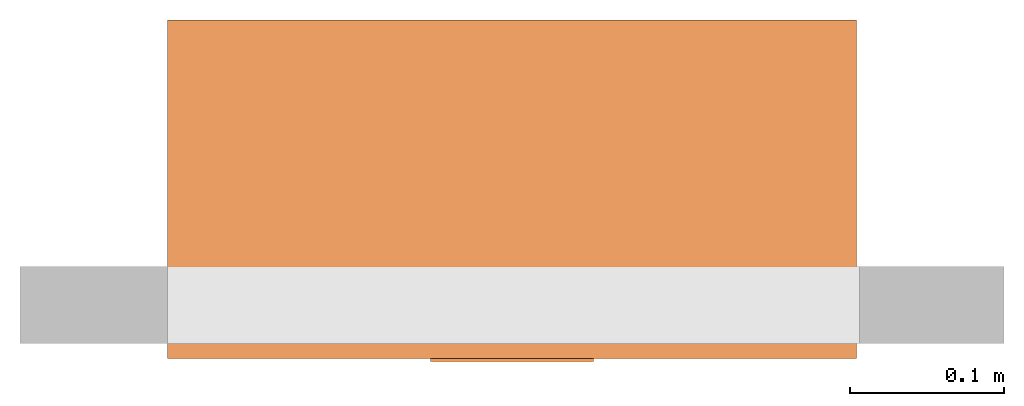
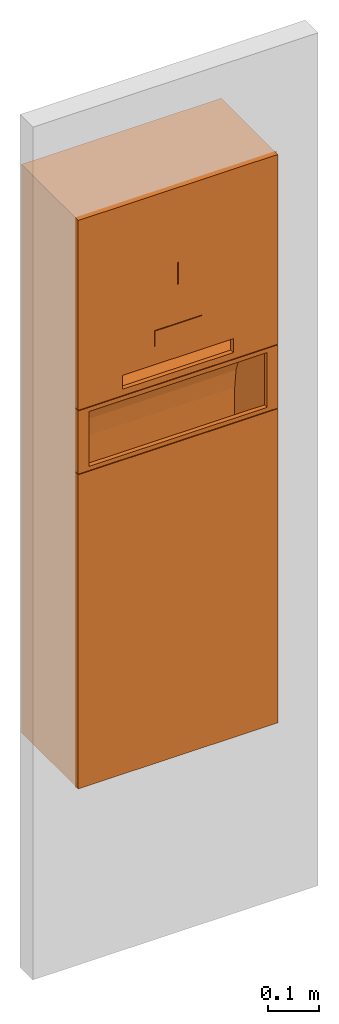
# One storey, part 2 of 2: 1 proxy.
"""IFC2X3 building model written with IfcOpenShell, lengths in millimetres."""

from ifc_helpers import new_model, entity, si_unit, converted_unit, derived_unit, direction, frame, origin, place, context, subcontext, project, spatial, faceted_brep, source, transform, mapped, material, material_list, element, save


model = new_model("IFC2X3")

# Units and contexts
model_context = context("Model", 3, precision=1e-05, world=origin(), true_north=direction((2.0, 6.12303176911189e-17, 1.0)))
context_of_model = context(None, 3, precision=1e-05, world=origin(), true_north=direction((2.0, 6.12303176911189e-17, 1.0)))
body_context = subcontext(model_context, "Body", "Model", "MODEL_VIEW")
ifc_project = project(units=[si_unit("LENGTHUNIT", "METRE", prefix="MILLI"), si_unit("AREAUNIT", "SQUARE_METRE"), si_unit("VOLUMEUNIT", "CUBIC_METRE"), converted_unit("PLANEANGLEUNIT", "DEGREE", entity("IfcRatioMeasure", 0.0174532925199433), si_unit("PLANEANGLEUNIT", "RADIAN"), dimensions=[0, 0, 0, 0, 0, 0, 0]), si_unit("MASSUNIT", "GRAM", prefix="KILO"), si_unit("TIMEUNIT", "SECOND"), si_unit("THERMODYNAMICTEMPERATUREUNIT", "KELVIN"), derived_unit("THERMALTRANSMITTANCEUNIT", [(si_unit("MASSUNIT", "GRAM", prefix="KILO"), 1), (si_unit("THERMODYNAMICTEMPERATUREUNIT", "KELVIN"), -1), (si_unit("TIMEUNIT", "SECOND"), -3)]), derived_unit("VOLUMETRICFLOWRATEUNIT", [(si_unit("LENGTHUNIT", "METRE"), 3), (si_unit("TIMEUNIT", "SECOND"), -1)]), si_unit("POWERUNIT", "WATT")], contexts=[model_context, context_of_model])

# Site, building, storey
site_placement = place(None, origin())
site = spatial("IfcSite", under=ifc_project, at=site_placement, Name="Default", CompositionType="ELEMENT")
building_placement = place(site_placement, origin())
building = spatial("IfcBuilding", under=site, at=building_placement, CompositionType="ELEMENT")
storey_placement = place(building_placement, origin())
storey = spatial("IfcBuildingStorey", under=building, at=storey_placement, Name="Level 1", CompositionType="ELEMENT", Elevation=0.0)

# Proxy
ifc_material = material(Name="Glass")
ifc_material_list = material_list([ifc_material])
shared_shape = source(origin(), body_context, "Body", "Brep", [
    faceted_brep([(53.0, -222.0, 990.0), (53.0, -222.0, 1027.0), (-53.0, -222.0, 1027.0), (-53.0, -222.0, 990.0), (0.0, -222.0, 990.0), (53.0, -219.0, 990.0), (0.0, -219.0, 990.0), (-53.0, -219.0, 990.0), (-53.0, -219.0, 1027.0), (53.0, -219.0, 1027.0), (53.0, -222.0, 1027.0), (53.0, -222.0, 990.0), (53.0, -219.0, 990.0), (53.0, -219.0, 1027.0), (-53.0, -222.0, 1027.0), (53.0, -222.0, 1027.0), (53.0, -219.0, 1027.0), (-53.0, -219.0, 1027.0), (-53.0, -222.0, 990.0), (-53.0, -222.0, 1027.0), (-53.0, -219.0, 1027.0), (-53.0, -219.0, 990.0), (0.0, -222.0, 990.0), (-53.0, -222.0, 990.0), (-53.0, -219.0, 990.0), (0.0, -219.0, 990.0), (53.0, -222.0, 990.0), (0.0, -222.0, 990.0), (0.0, -219.0, 990.0), (53.0, -219.0, 990.0)], [[[0, 1, 2, 3, 4]], [[5, 6, 7, 8, 9]], [[10, 11, 12, 13]], [[14, 15, 16, 17]], [[18, 19, 20, 21]], [[22, 23, 24, 25]], [[26, 27, 28, 29]]]),
    faceted_brep([(223.0, -40.0, 896.500000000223), (223.0, -210.0, 896.500000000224), (223.0, -210.0, 886.500000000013), (223.0, -168.045080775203, 872.770704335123), (223.0, -130.281413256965, 849.909947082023), (223.0, -98.6652923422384, 819.101998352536), (223.0, -74.8345477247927, 781.94282159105), (223.0, -60.0236983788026, 740.35739688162), (223.0, -55.0, 696.500000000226), (223.0, -55.0, 526.500000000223), (223.0, -40.0, 526.500000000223), (-223.0, -210.0, 886.500000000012), (-223.0, -210.0, 896.500000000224), (-223.0, -40.0, 896.500000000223), (-223.0, -40.0, 526.500000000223), (-223.0, -55.0, 526.500000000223), (-223.0, -55.0, 696.500000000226), (-223.0, -60.0236983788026, 740.35739688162), (-223.0, -74.8345477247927, 781.94282159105), (-223.0, -98.6652923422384, 819.101998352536), (-223.0, -130.281413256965, 849.909947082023), (-223.0, -168.045080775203, 872.770704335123)], [[[0, 1, 2, 3, 4, 5, 6, 7, 8, 9, 10]], [[11, 12, 13, 14, 15, 16, 17, 18, 19, 20, 21]], [[1, 0, 13, 12]], [[2, 1, 12, 11]], [[3, 2, 11, 21]], [[4, 3, 21, 20]], [[20, 19, 5, 4]], [[7, 6, 18, 17]], [[8, 7, 17, 16]], [[19, 18, 6, 5]], [[9, 8, 16, 15]], [[10, 9, 15, 14]], [[0, 10, 14, 13]]]),
    faceted_brep([(-224.0, -210.0, 898.0), (-124.0, -210.0, 946.0), (-124.0, -210.0, 913.0), (-224.0, -210.0, 1348.0), (0.0, -210.0, 913.0), (224.0, -210.0, 898.0), (-1.24999999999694, -210.0, 1119.25), (-1.24999999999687, -210.0, 1170.25), (0.0, -210.0, 1171.5), (224.0, -210.0, 1348.0), (124.0, -210.0, 946.0), (1.2500000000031, -210.0, 1170.25), (1.25000000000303, -210.0, 1119.25), (124.0, -210.0, 913.0), (0.0, -210.0, 1118.0), (-224.0, -220.0, 1348.0), (-1.24999999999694, -220.0, 1119.25), (-1.24999999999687, -220.0, 1170.25), (-124.0, -220.0, 946.0), (0.0, -220.0, 1171.5), (224.0, -220.0, 1348.0), (-224.0, -220.0, 898.0), (-124.0, -220.0, 913.0), (0.0, -220.0, 913.0), (224.0, -220.0, 898.0), (124.0, -220.0, 913.0), (124.0, -220.0, 946.0), (1.25000000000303, -220.0, 1119.25), (0.0, -220.0, 1118.0), (1.25000000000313, -220.0, 1170.25)], [[[0, 1, 2]], [[1, 0, 3]], [[0, 2, 4]], [[5, 0, 4]], [[6, 1, 3]], [[3, 7, 6]], [[7, 3, 8]], [[9, 8, 3]], [[5, 10, 9]], [[8, 9, 11]], [[12, 11, 9]], [[12, 9, 10]], [[5, 13, 10]], [[1, 14, 10]], [[14, 12, 10]], [[6, 14, 1]], [[13, 5, 4]], [[15, 16, 17]], [[16, 15, 18]], [[15, 17, 19]], [[19, 20, 15]], [[15, 21, 18]], [[21, 22, 18]], [[22, 21, 23]], [[23, 21, 24]], [[24, 25, 23]], [[25, 24, 26]], [[24, 20, 26]], [[20, 27, 26]], [[26, 28, 18]], [[26, 27, 28]], [[28, 16, 18]], [[20, 19, 29]], [[29, 27, 20]], [[24, 21, 0, 5]], [[20, 24, 5, 9]], [[15, 20, 9, 3]], [[21, 15, 3, 0]], [[23, 25, 13, 4, 2, 22]], [[18, 22, 2, 1]], [[26, 18, 1, 10]], [[25, 26, 10, 13]], [[27, 29, 11, 12]], [[12, 14, 28, 27]], [[6, 16, 28, 14]], [[17, 16, 6, 7]], [[7, 8, 19, 17]], [[11, 29, 19, 8]]]),
    faceted_brep([(-224.0, -210.0, 745.0), (224.0, -210.0, 745.0), (224.0, -210.0, 0.0), (-224.0, -210.0, 0.0), (-224.0, -220.0, 0.0), (-224.0, -220.0, 745.0), (-224.0, -210.0, 745.0), (-224.0, -210.0, 0.0), (224.0, -220.0, 0.0), (-224.0, -220.0, 0.0), (-224.0, -210.0, 0.0), (224.0, -210.0, 0.0), (224.0, -220.0, 745.0), (224.0, -220.0, 0.0), (224.0, -210.0, 0.0), (224.0, -210.0, 745.0), (-224.0, -220.0, 745.0), (224.0, -220.0, 745.0), (224.0, -210.0, 745.0), (-224.0, -210.0, 745.0), (-224.0, -220.0, 745.0), (-224.0, -220.0, 0.0), (224.0, -220.0, 0.0), (224.0, -220.0, 745.0)], [[[0, 1, 2, 3]], [[4, 5, 6, 7]], [[8, 9, 10, 11]], [[12, 13, 14, 15]], [[16, 17, 18, 19]], [[20, 21, 22, 23]]]),
    faceted_brep([(224.0, -220.0, 896.5), (224.0, -220.0, 746.532649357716), (224.0, -210.0, 746.532649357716), (224.0, -210.0, 896.5), (-224.0, -220.0, 896.500000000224), (224.0, -220.0, 896.5), (224.0, -210.0, 896.5), (-224.0, -210.0, 896.500000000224), (-224.0, -220.0, 746.532649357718), (-224.0, -220.0, 896.500000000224), (-224.0, -210.0, 896.500000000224), (-224.0, -210.0, 746.532649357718), (224.0, -220.0, 746.532649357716), (-224.0, -220.0, 746.532649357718), (-224.0, -210.0, 746.532649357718), (224.0, -210.0, 746.532649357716), (-200.0, -220.0, 756.532649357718), (200.0, -220.0, 756.532649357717), (200.0, -210.0, 756.532649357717), (-200.0, -210.0, 756.532649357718), (-200.0, -220.0, 886.500000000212), (-200.0, -220.0, 756.532649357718), (-200.0, -210.0, 756.532649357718), (-200.0, -210.0, 886.500000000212), (200.0, -220.0, 886.500000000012), (-200.0, -220.0, 886.500000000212), (-200.0, -210.0, 886.500000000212), (200.0, -210.0, 886.500000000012), (200.0, -220.0, 756.532649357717), (200.0, -220.0, 886.500000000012), (200.0, -210.0, 886.500000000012), (200.0, -210.0, 756.532649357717), (224.0, -210.0, 746.532649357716), (-224.0, -210.0, 746.532649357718), (-224.0, -210.0, 896.500000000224), (224.0, -210.0, 896.5), (200.0, -210.0, 756.532649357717), (200.0, -210.0, 886.500000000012), (-200.0, -210.0, 886.500000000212), (-200.0, -210.0, 756.532649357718), (224.0, -220.0, 746.532649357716), (224.0, -220.0, 896.5), (-224.0, -220.0, 896.500000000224), (-224.0, -220.0, 746.532649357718), (200.0, -220.0, 756.532649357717), (-200.0, -220.0, 756.532649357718), (-200.0, -220.0, 886.500000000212), (200.0, -220.0, 886.500000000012)], [[[0, 1, 2, 3]], [[4, 5, 6, 7]], [[8, 9, 10, 11]], [[12, 13, 14, 15]], [[16, 17, 18, 19]], [[20, 21, 22, 23]], [[24, 25, 26, 27]], [[28, 29, 30, 31]], [[32, 33, 34, 35], [36, 37, 38, 39]], [[40, 41, 42, 43], [44, 45, 46, 47]]]),
    faceted_brep([(-224.0, -2.0, 1348.0), (-224.0, -2.0, 0.0), (224.0, -2.0, 0.0), (224.0, -2.0, 1348.0), (-224.0, 0.0, 1348.0), (224.0, 0.0, 1348.0), (224.0, 0.0, 0.0), (-224.0, 0.0, 0.0), (-224.0, -2.0, 0.0), (-224.0, -2.0, 1348.0), (-224.0, 0.0, 1348.0), (-224.0, 0.0, 0.0), (224.0, -2.0, 0.0), (-224.0, -2.0, 0.0), (-224.0, 0.0, 0.0), (224.0, 0.0, 0.0), (224.0, -2.0, 1348.0), (224.0, -2.0, 0.0), (224.0, 0.0, 0.0), (224.0, 0.0, 1348.0), (-224.0, -2.0, 1348.0), (224.0, -2.0, 1348.0), (224.0, 0.0, 1348.0), (-224.0, 0.0, 1348.0)], [[[0, 1, 2, 3]], [[4, 5, 6, 7]], [[8, 9, 10, 11]], [[12, 13, 14, 15]], [[16, 17, 18, 19]], [[20, 21, 22, 23]]]),
    faceted_brep([(224.0, -210.0, 0.0), (224.0, -210.0, 1348.0), (-224.0, -210.0, 1348.0), (-224.0, -210.0, 0.0), (-222.499999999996, -210.0, 1346.5), (222.500000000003, -210.0, 1346.5), (222.499999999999, -210.0, 1.50000000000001), (-222.499999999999, -210.0, 1.50000000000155), (224.0, 0.0, 0.0), (-224.0, 0.0, 0.0), (-224.0, 0.0, 1348.0), (224.0, 0.0, 1348.0), (-222.499999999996, 0.0, 1346.5), (-222.499999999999, 0.0, 1.50000000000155), (222.499999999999, 0.0, 1.49999999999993), (222.500000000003, 0.0, 1346.5), (224.0, -210.0, 1348.0), (224.0, -210.0, 0.0), (224.0, 0.0, 0.0), (224.0, 0.0, 1348.0), (-224.0, -210.0, 1348.0), (224.0, -210.0, 1348.0), (224.0, 0.0, 1348.0), (-224.0, 0.0, 1348.0), (-224.0, -210.0, 0.0), (-224.0, -210.0, 1348.0), (-224.0, 0.0, 1348.0), (-224.0, 0.0, 0.0), (224.0, -210.0, 0.0), (-224.0, -210.0, 0.0), (-224.0, 0.0, 0.0), (224.0, 0.0, 0.0), (222.500000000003, -210.0, 1346.5), (-222.499999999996, -210.0, 1346.5), (-222.499999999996, 0.0, 1346.5), (222.500000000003, 0.0, 1346.5), (222.499999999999, -210.0, 1.49999999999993), (222.500000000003, -210.0, 1346.5), (222.500000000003, 0.0, 1346.5), (222.499999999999, 0.0, 1.50000000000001), (-222.499999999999, -210.0, 1.50000000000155), (222.499999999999, -210.0, 1.50000000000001), (222.499999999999, 0.0, 1.50000000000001), (-222.499999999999, 0.0, 1.50000000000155), (-222.499999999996, -210.0, 1346.5), (-222.499999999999, -210.0, 1.50000000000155), (-222.499999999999, 0.0, 1.50000000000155), (-222.499999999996, 0.0, 1346.5)], [[[0, 1, 2, 3], [4, 5, 6, 7]], [[8, 9, 10, 11], [12, 13, 14, 15]], [[16, 17, 18, 19]], [[20, 21, 22, 23]], [[24, 25, 26, 27]], [[28, 29, 30, 31]], [[32, 33, 34, 35]], [[36, 37, 38, 39]], [[40, 41, 42, 43]], [[44, 45, 46, 47]]]),
])
proxy_placement = place(storey_placement, frame((-0.750996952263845, 4163.00473155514, 36.0481875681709)))
element("IfcBuildingElementProxy", 1, at=proxy_placement, inside=storey, material=ifc_material_list, Name="DP4310:DP4310 Dolphin Combination Paper Towel and Waste Bin Touch Free", ObjectType="DP4310 Dolphin Combination Paper Towel and Waste Bin Touch Free", CompositionType="ELEMENT", context=body_context, shape_type="MappedRepresentation", body=[
    mapped(shared_shape, transform((0.0, 0.0, 0.0), scale=1.0)),
])

save(model, "model.ifc")
